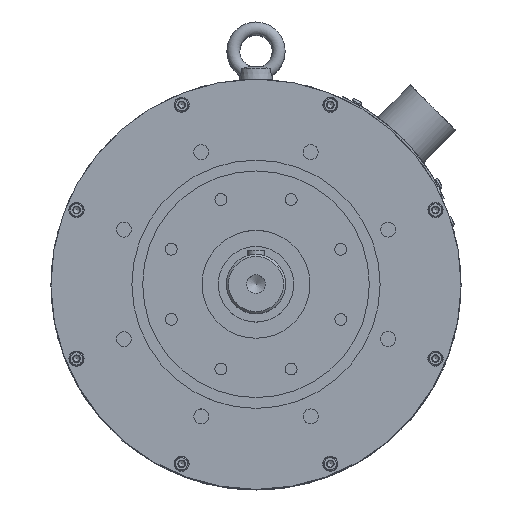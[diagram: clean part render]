
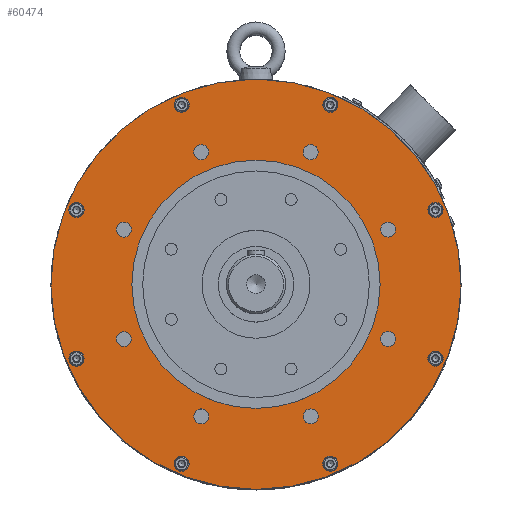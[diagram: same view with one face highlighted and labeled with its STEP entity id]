
A CAD part, top view. The second image highlights one B-rep face of the part: STEP entity #60474.
In plain terms, the highlighted planar face has unit normal (0, 0, 1).
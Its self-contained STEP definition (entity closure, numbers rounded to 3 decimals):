
#1823=FACE_BOUND('',#19521,.T.);
#1824=FACE_BOUND('',#19522,.T.);
#1825=FACE_BOUND('',#19523,.T.);
#1826=FACE_BOUND('',#19524,.T.);
#1827=FACE_BOUND('',#19525,.T.);
#1828=FACE_BOUND('',#19526,.T.);
#1829=FACE_BOUND('',#19527,.T.);
#1830=FACE_BOUND('',#19528,.T.);
#1831=FACE_BOUND('',#19529,.T.);
#1832=FACE_BOUND('',#19530,.T.);
#1833=FACE_BOUND('',#19531,.T.);
#1834=FACE_BOUND('',#19532,.T.);
#1835=FACE_BOUND('',#19533,.T.);
#1836=FACE_BOUND('',#19534,.T.);
#1837=FACE_BOUND('',#19535,.T.);
#1838=FACE_BOUND('',#19536,.T.);
#1839=FACE_BOUND('',#19537,.T.);
#4234=LINE('',#96113,#9026);
#4235=LINE('',#96135,#9027);
#4236=LINE('',#96157,#9028);
#9026=VECTOR('',#73571,0.238);
#9027=VECTOR('',#73576,6.245);
#9028=VECTOR('',#73579,0.238);
#13267=PLANE('',#64582);
#15932=FACE_OUTER_BOUND('',#19520,.T.);
#19520=EDGE_LOOP('',(#45188,#45189,#45190,#45191));
#19521=EDGE_LOOP('',(#45192));
#19522=EDGE_LOOP('',(#45193));
#19523=EDGE_LOOP('',(#45194));
#19524=EDGE_LOOP('',(#45195));
#19525=EDGE_LOOP('',(#45196));
#19526=EDGE_LOOP('',(#45197));
#19527=EDGE_LOOP('',(#45198));
#19528=EDGE_LOOP('',(#45199));
#19529=EDGE_LOOP('',(#45200));
#19530=EDGE_LOOP('',(#45201));
#19531=EDGE_LOOP('',(#45202));
#19532=EDGE_LOOP('',(#45203));
#19533=EDGE_LOOP('',(#45204));
#19534=EDGE_LOOP('',(#45205));
#19535=EDGE_LOOP('',(#45206));
#19536=EDGE_LOOP('',(#45207));
#19537=EDGE_LOOP('',(#45208));
#23222=CIRCLE('',#64509,6.918);
#23223=CIRCLE('',#64511,6.918);
#23224=CIRCLE('',#64513,6.918);
#23225=CIRCLE('',#64515,6.918);
#23226=CIRCLE('',#64517,6.918);
#23227=CIRCLE('',#64519,6.918);
#23228=CIRCLE('',#64521,6.918);
#23229=CIRCLE('',#64523,6.918);
#23232=CIRCLE('',#64528,7.);
#23235=CIRCLE('',#64534,7.);
#23238=CIRCLE('',#64540,7.);
#23241=CIRCLE('',#64546,7.);
#23244=CIRCLE('',#64552,7.);
#23247=CIRCLE('',#64558,7.);
#23250=CIRCLE('',#64564,7.);
#23253=CIRCLE('',#64570,7.);
#23258=CIRCLE('',#64581,115.);
#23259=CIRCLE('',#64583,190.);
#27128=VERTEX_POINT('',#96110);
#27129=VERTEX_POINT('',#96112);
#27130=VERTEX_POINT('',#96133);
#27131=VERTEX_POINT('',#96137);
#27140=VERTEX_POINT('',#96183);
#27141=VERTEX_POINT('',#96186);
#27142=VERTEX_POINT('',#96189);
#27143=VERTEX_POINT('',#96192);
#27144=VERTEX_POINT('',#96195);
#27145=VERTEX_POINT('',#96198);
#27146=VERTEX_POINT('',#96201);
#27147=VERTEX_POINT('',#96204);
#27150=VERTEX_POINT('',#96212);
#27153=VERTEX_POINT('',#96221);
#27156=VERTEX_POINT('',#96230);
#27159=VERTEX_POINT('',#96239);
#27162=VERTEX_POINT('',#96248);
#27165=VERTEX_POINT('',#96257);
#27168=VERTEX_POINT('',#96266);
#27171=VERTEX_POINT('',#96275);
#27176=VERTEX_POINT('',#96291);
#33852=EDGE_CURVE('',#27129,#27128,#4234,.T.);
#33855=EDGE_CURVE('',#27128,#27130,#4235,.T.);
#33857=EDGE_CURVE('',#27130,#27131,#4236,.T.);
#33866=EDGE_CURVE('',#27140,#27140,#23222,.T.);
#33867=EDGE_CURVE('',#27141,#27141,#23223,.T.);
#33868=EDGE_CURVE('',#27142,#27142,#23224,.T.);
#33869=EDGE_CURVE('',#27143,#27143,#23225,.T.);
#33870=EDGE_CURVE('',#27144,#27144,#23226,.T.);
#33871=EDGE_CURVE('',#27145,#27145,#23227,.T.);
#33872=EDGE_CURVE('',#27146,#27146,#23228,.T.);
#33873=EDGE_CURVE('',#27147,#27147,#23229,.T.);
#33876=EDGE_CURVE('',#27150,#27150,#23232,.T.);
#33879=EDGE_CURVE('',#27153,#27153,#23235,.T.);
#33882=EDGE_CURVE('',#27156,#27156,#23238,.T.);
#33885=EDGE_CURVE('',#27159,#27159,#23241,.T.);
#33888=EDGE_CURVE('',#27162,#27162,#23244,.T.);
#33891=EDGE_CURVE('',#27165,#27165,#23247,.T.);
#33894=EDGE_CURVE('',#27168,#27168,#23250,.T.);
#33897=EDGE_CURVE('',#27171,#27171,#23253,.T.);
#33902=EDGE_CURVE('',#27176,#27176,#23258,.T.);
#33903=EDGE_CURVE('',#27129,#27131,#23259,.T.);
#45188=ORIENTED_EDGE('',*,*,#33857,.T.);
#45189=ORIENTED_EDGE('',*,*,#33903,.F.);
#45190=ORIENTED_EDGE('',*,*,#33852,.T.);
#45191=ORIENTED_EDGE('',*,*,#33855,.T.);
#45192=ORIENTED_EDGE('',*,*,#33866,.T.);
#45193=ORIENTED_EDGE('',*,*,#33867,.T.);
#45194=ORIENTED_EDGE('',*,*,#33868,.T.);
#45195=ORIENTED_EDGE('',*,*,#33869,.T.);
#45196=ORIENTED_EDGE('',*,*,#33870,.T.);
#45197=ORIENTED_EDGE('',*,*,#33871,.T.);
#45198=ORIENTED_EDGE('',*,*,#33872,.T.);
#45199=ORIENTED_EDGE('',*,*,#33873,.T.);
#45200=ORIENTED_EDGE('',*,*,#33876,.T.);
#45201=ORIENTED_EDGE('',*,*,#33879,.T.);
#45202=ORIENTED_EDGE('',*,*,#33882,.T.);
#45203=ORIENTED_EDGE('',*,*,#33885,.T.);
#45204=ORIENTED_EDGE('',*,*,#33888,.T.);
#45205=ORIENTED_EDGE('',*,*,#33891,.T.);
#45206=ORIENTED_EDGE('',*,*,#33894,.T.);
#45207=ORIENTED_EDGE('',*,*,#33897,.T.);
#45208=ORIENTED_EDGE('',*,*,#33902,.T.);
#60474=ADVANCED_FACE('',(#15932,#1823,#1824,#1825,#1826,#1827,#1828,#1829,
#1830,#1831,#1832,#1833,#1834,#1835,#1836,#1837,#1838,#1839),#13267,.T.);
#64509=AXIS2_PLACEMENT_3D('',#96184,#73614,#73615);
#64511=AXIS2_PLACEMENT_3D('',#96187,#73618,#73619);
#64513=AXIS2_PLACEMENT_3D('',#96190,#73622,#73623);
#64515=AXIS2_PLACEMENT_3D('',#96193,#73626,#73627);
#64517=AXIS2_PLACEMENT_3D('',#96196,#73630,#73631);
#64519=AXIS2_PLACEMENT_3D('',#96199,#73634,#73635);
#64521=AXIS2_PLACEMENT_3D('',#96202,#73638,#73639);
#64523=AXIS2_PLACEMENT_3D('',#96205,#73642,#73643);
#64528=AXIS2_PLACEMENT_3D('',#96213,#73652,#73653);
#64534=AXIS2_PLACEMENT_3D('',#96222,#73664,#73665);
#64540=AXIS2_PLACEMENT_3D('',#96231,#73676,#73677);
#64546=AXIS2_PLACEMENT_3D('',#96240,#73688,#73689);
#64552=AXIS2_PLACEMENT_3D('',#96249,#73700,#73701);
#64558=AXIS2_PLACEMENT_3D('',#96258,#73712,#73713);
#64564=AXIS2_PLACEMENT_3D('',#96267,#73724,#73725);
#64570=AXIS2_PLACEMENT_3D('',#96276,#73736,#73737);
#64581=AXIS2_PLACEMENT_3D('',#96292,#73758,#73759);
#64582=AXIS2_PLACEMENT_3D('',#96293,#73760,#73761);
#64583=AXIS2_PLACEMENT_3D('',#96294,#73762,#73763);
#73571=DIRECTION('',(0.,-1.,0.));
#73576=DIRECTION('',(-1.,0.,0.));
#73579=DIRECTION('',(0.,1.,0.));
#73614=DIRECTION('center_axis',(0.,0.,-1.));
#73615=DIRECTION('ref_axis',(0.707,-0.707,0.));
#73618=DIRECTION('center_axis',(0.,0.,-1.));
#73619=DIRECTION('ref_axis',(0.,-1.,0.));
#73622=DIRECTION('center_axis',(0.,0.,-1.));
#73623=DIRECTION('ref_axis',(-0.707,-0.707,0.));
#73626=DIRECTION('center_axis',(0.,0.,-1.));
#73627=DIRECTION('ref_axis',(-1.,0.,0.));
#73630=DIRECTION('center_axis',(0.,0.,-1.));
#73631=DIRECTION('ref_axis',(-0.707,0.707,0.));
#73634=DIRECTION('center_axis',(0.,0.,-1.));
#73635=DIRECTION('ref_axis',(0.,1.,0.));
#73638=DIRECTION('center_axis',(0.,0.,-1.));
#73639=DIRECTION('ref_axis',(0.707,0.707,0.));
#73642=DIRECTION('center_axis',(0.,0.,-1.));
#73643=DIRECTION('ref_axis',(1.,0.,0.));
#73652=DIRECTION('center_axis',(0.,0.,-1.));
#73653=DIRECTION('ref_axis',(0.707,-0.707,0.));
#73664=DIRECTION('center_axis',(0.,0.,-1.));
#73665=DIRECTION('ref_axis',(0.,-1.,0.));
#73676=DIRECTION('center_axis',(0.,0.,-1.));
#73677=DIRECTION('ref_axis',(-0.707,-0.707,0.));
#73688=DIRECTION('center_axis',(0.,0.,-1.));
#73689=DIRECTION('ref_axis',(-1.,0.,0.));
#73700=DIRECTION('center_axis',(0.,0.,-1.));
#73701=DIRECTION('ref_axis',(-0.707,0.707,0.));
#73712=DIRECTION('center_axis',(0.,0.,-1.));
#73713=DIRECTION('ref_axis',(0.,1.,0.));
#73724=DIRECTION('center_axis',(0.,0.,-1.));
#73725=DIRECTION('ref_axis',(0.707,0.707,0.));
#73736=DIRECTION('center_axis',(0.,0.,-1.));
#73737=DIRECTION('ref_axis',(1.,0.,0.));
#73758=DIRECTION('center_axis',(0.,0.,-1.));
#73759=DIRECTION('ref_axis',(1.,0.,0.));
#73760=DIRECTION('center_axis',(0.,0.,1.));
#73761=DIRECTION('ref_axis',(1.,0.,0.));
#73762=DIRECTION('center_axis',(0.,0.,-1.));
#73763=DIRECTION('ref_axis',(1.,0.,0.));
#96110=CARTESIAN_POINT('',(3.122,189.737,19.));
#96112=CARTESIAN_POINT('',(3.122,189.974,19.));
#96113=CARTESIAN_POINT('',(3.122,190.,19.));
#96133=CARTESIAN_POINT('',(-3.122,189.737,19.));
#96135=CARTESIAN_POINT('',(0.,189.737,19.));
#96137=CARTESIAN_POINT('',(-3.122,189.974,19.));
#96157=CARTESIAN_POINT('',(-3.122,190.,19.));
#96183=CARTESIAN_POINT('',(55.597,117.523,19.));
#96184=CARTESIAN_POINT('Origin',(50.706,122.414,19.));
#96186=CARTESIAN_POINT('',(122.414,43.788,19.));
#96187=CARTESIAN_POINT('Origin',(122.414,50.706,19.));
#96189=CARTESIAN_POINT('',(117.523,-55.597,19.));
#96190=CARTESIAN_POINT('Origin',(122.414,-50.706,19.));
#96192=CARTESIAN_POINT('',(43.788,-122.414,19.));
#96193=CARTESIAN_POINT('Origin',(50.706,-122.414,19.));
#96195=CARTESIAN_POINT('',(-55.597,-117.523,19.));
#96196=CARTESIAN_POINT('Origin',(-50.706,-122.414,19.));
#96198=CARTESIAN_POINT('',(-122.414,-43.788,19.));
#96199=CARTESIAN_POINT('Origin',(-122.414,-50.706,19.));
#96201=CARTESIAN_POINT('',(-117.523,55.597,19.));
#96202=CARTESIAN_POINT('Origin',(-122.414,50.706,19.));
#96204=CARTESIAN_POINT('',(-43.788,122.414,19.));
#96205=CARTESIAN_POINT('Origin',(-50.706,122.414,19.));
#96212=CARTESIAN_POINT('',(73.833,161.349,19.));
#96213=CARTESIAN_POINT('Origin',(68.883,166.298,19.));
#96221=CARTESIAN_POINT('',(166.298,61.883,19.));
#96222=CARTESIAN_POINT('Origin',(166.298,68.883,19.));
#96230=CARTESIAN_POINT('',(161.349,-73.833,19.));
#96231=CARTESIAN_POINT('Origin',(166.298,-68.883,19.));
#96239=CARTESIAN_POINT('',(61.883,-166.298,19.));
#96240=CARTESIAN_POINT('Origin',(68.883,-166.298,19.));
#96248=CARTESIAN_POINT('',(-73.833,-161.349,19.));
#96249=CARTESIAN_POINT('Origin',(-68.883,-166.298,19.));
#96257=CARTESIAN_POINT('',(-166.298,-61.883,19.));
#96258=CARTESIAN_POINT('Origin',(-166.298,-68.883,19.));
#96266=CARTESIAN_POINT('',(-161.349,73.833,19.));
#96267=CARTESIAN_POINT('Origin',(-166.298,68.883,19.));
#96275=CARTESIAN_POINT('',(-61.883,166.298,19.));
#96276=CARTESIAN_POINT('Origin',(-68.883,166.298,19.));
#96291=CARTESIAN_POINT('',(0.,115.,19.));
#96292=CARTESIAN_POINT('Origin',(0.,0.,19.));
#96293=CARTESIAN_POINT('Origin',(0.,190.,19.));
#96294=CARTESIAN_POINT('Origin',(0.,0.,19.));
